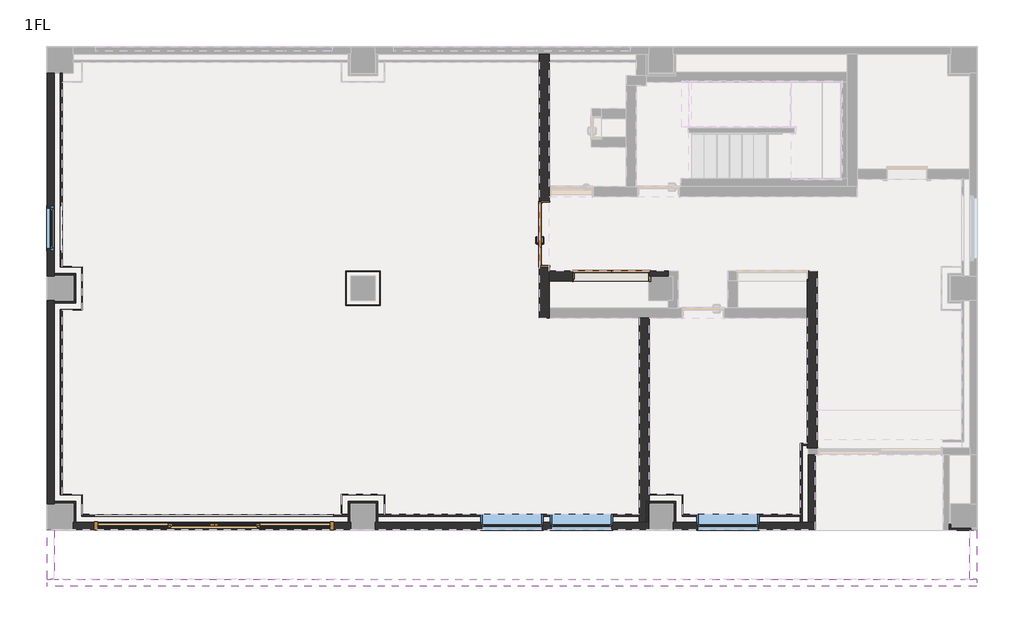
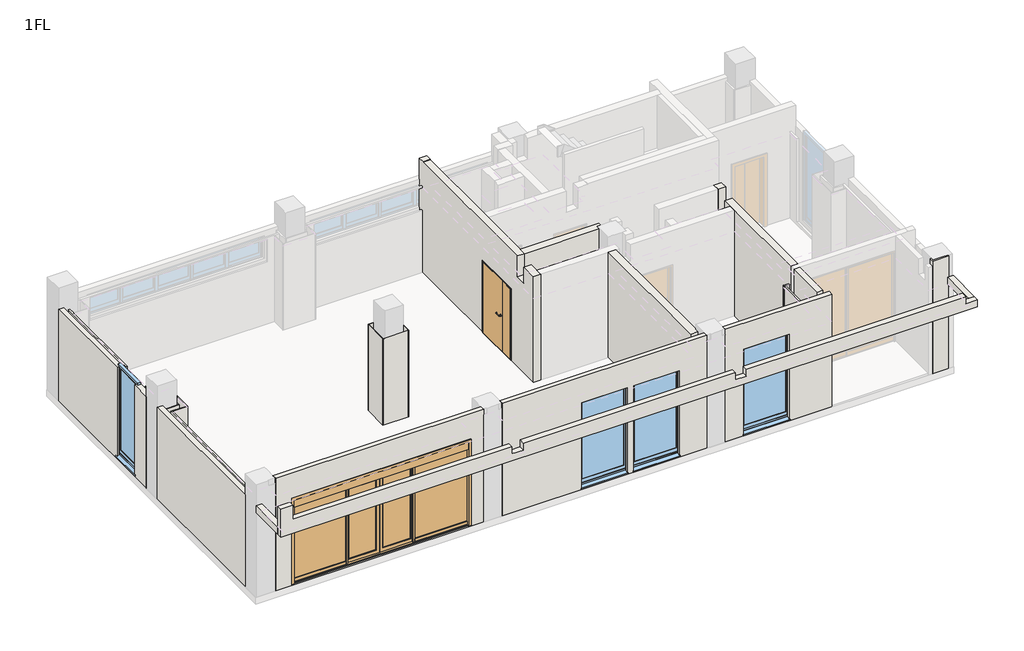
# One storey, part 1 of 3: 43 walls, 4 windows, 3 doors.
"""IFC4 building model written with IfcOpenShell, lengths in millimetres."""

from ifc_helpers import new_model, si_unit, frame, origin, place, context, project, spatial, polyline, outline, extrude, faceted_brep, transform, mapped, element, save
from components import door_5dd87f21, door_5352abf3, door_2ddaac4c, window_34b737b2, window_808e8724

model = new_model("IFC4")

# Units and contexts
model_context = context("Model", 3, world=origin())
ifc_project = project(units=[si_unit("LENGTHUNIT", "METRE", prefix="MILLI")], contexts=[model_context])

# Site, building, storey
site = spatial("IfcSite", under=ifc_project)
building = spatial("IfcBuilding", under=site)
storey = spatial("IfcBuildingStorey", under=building, Name="1FL", Elevation=100.0)

# Doors
placement = place(None, origin())
door_shape = door_5dd87f21(model_context)
element("IfcDoor", 1, ObjectType="B1 両開 フラッシュ_A1枠 : SD5-H2000W1500", at=placement, inside=storey, context=model_context, shape_type="MappedRepresentation", body=[
    mapped(door_shape, transform((11090.0, 4839.9999966, 100.0), x_axis=(1.0, 0.0, 0.0), y_axis=(0.0, 1.0, 0.0), z_axis=(0.0, 0.0, 1.0))),
])
door_2_shape = door_5352abf3(model_context)
element("IfcDoor", 2, ObjectType="□C1 親子 フラッシュ_A2枠 : SD1_H2000W1250", at=placement, inside=storey, context=model_context, shape_type="MappedRepresentation", body=[
    mapped(door_2_shape, transform((9740.0, 5687.5, 100.0), x_axis=(0.0, -1.0, 0.0), y_axis=(1.0, 0.0, 0.0), z_axis=(0.0, 0.0, 1.0))),
])
door_3_shape = door_2ddaac4c(model_context)
element("IfcDoor", 3, ObjectType="BC_STD_引分自動_欄間付 : SSD2_H2360W4680", at=placement, inside=storey, context=model_context, shape_type="MappedRepresentation", body=[
    mapped(door_3_shape, transform((3090.0, -197.5, 100.0), x_axis=(-1.0, 0.0, 0.0), y_axis=(0.0, -1.0, 0.0), z_axis=(0.0, 0.0, 1.0))),
])

# Walls
element("IfcWall", 4, ObjectType="•_RC120+押出法ポリスチレンフォーム1種 t25", at=placement, inside=storey, context=model_context, shape_type="Brep", body=[
    faceted_brep([(-125.0, 8930.0, 50.0), (-125.0, 8930.0, 2649.9998563), (-125.0, 6260.0, 2649.9998563), (-125.0, 6260.0, 185.0), (-125.0, 5340.0, 185.0), (-125.0, 5340.0, 2649.9998563), (-125.0, 4840.0, 2649.9998563), (-125.0, 4840.0, 50.0), (-125.0, 4860.0, 50.0), (-125.0, 4890.0, 50.0), (-270.0, 6210.0, 170.0), (-270.0, 6210.0, 2649.9998563), (-270.0, 8930.0, 2649.9998563), (-270.0, 8930.0, 50.0), (-270.0, 4840.0, 50.0), (-270.0, 4840.0, 2649.9998563), (-270.0, 5390.0, 2649.9998563), (-270.0, 5390.0, 170.0), (-270.0, 5390.0, 115.0), (-270.0, 6210.0, 115.0), (-210.0, 6210.0, 2649.9998563), (-210.0, 6260.0, 2649.9998563), (-210.0, 5340.0, 2649.9998563), (-210.0, 5390.0, 2649.9998563), (-210.0, 6260.0, 115.0), (-140.0, 6260.0, 115.0), (-140.0, 6260.0, 185.0), (-140.0, 5340.0, 185.0), (-140.0, 5340.0, 115.0), (-210.0, 5340.0, 115.0), (-210.0, 6210.0, 115.0), (-210.0, 5390.0, 115.0)], [[[0, 1, 2, 3, 4, 5, 6, 7, 8, 9]], [[10, 11, 12, 13, 14, 15, 16, 17, 18, 19]], [[13, 0, 9, 8, 7, 14]], [[1, 12, 11, 20, 21, 2]], [[5, 22, 23, 16, 15, 6]], [[1, 0, 13, 12]], [[24, 25, 26, 3, 2, 21]], [[27, 28, 29, 22, 5, 4]], [[26, 27, 4, 3]], [[25, 24, 30, 19, 18, 31, 29, 28]], [[30, 24, 21, 20]], [[29, 31, 23, 22]], [[25, 28, 27, 26]], [[19, 30, 20, 11, 10]], [[31, 18, 17, 16, 23]], [[7, 6, 15, 14]]]),
    faceted_brep([(-125.0, 250.0, 2649.9998563), (-125.0, 250.0, 50.0), (-125.0, 270.0, 50.0), (-125.0, 300.0, 50.0), (-125.0, 4290.0, 50.0), (-125.0, 4320.0, 50.0), (-125.0, 4340.0, 50.0), (-125.0, 4340.0, 2649.9998563), (-270.0, 250.0, 50.0), (-270.0, 250.0, 2649.9998563), (-270.0, 4340.0, 2649.9998563), (-270.0, 4340.0, 50.0)], [[[0, 1, 2, 3, 4, 5, 6, 7]], [[8, 9, 10, 11]], [[1, 8, 11, 6, 5, 4, 3, 2]], [[9, 0, 7, 10]], [[7, 6, 11, 10]], [[1, 0, 9, 8]]]),
])
element("IfcWall", 5, ObjectType="•_RC120+押出法ポリスチレンフォーム1種 t25", at=placement, inside=storey, context=model_context, shape_type="Brep", body=[
    faceted_brep([(15200.0, -125.0, 50.0), (15055.0, -125.0, 50.0), (14940.0, -125.0, 50.0), (14897.5, -125.0, 50.0), (12389.9999426, -125.0, 50.0), (12359.9999426, -125.0, 50.0), (12340.0, -125.0, 50.0), (12340.0, -125.0, 2650.0), (15200.0, -125.0, 2650.0), (12810.0, -125.0, 2530.0), (12810.0, -125.0, 95.0), (14070.0, -125.0, 95.0), (14070.0, -125.0, 2530.0), (15200.0, -270.0, 50.0), (15200.0, -270.0, 3100.0), (15200.0, -270.0, 3250.0), (12340.0, -270.0, 3250.0), (12340.0, -270.0, 3100.0), (12340.0, -270.0, 50.0), (14050.0, -270.0, 95.0), (12830.0, -270.0, 95.0), (12830.0, -270.0, 2510.0), (14050.0, -270.0, 2510.0), (15200.0, -150.0, 3250.0), (12340.0, -150.0, 3250.0), (12340.0, -250.0, 3250.0), (15200.0, -150.0, 2650.0), (15200.0, -150.0, 3100.0), (12810.0, -210.0, 95.0), (12830.0, -210.0, 95.0), (14050.0, -210.0, 95.0), (14070.0, -210.0, 95.0), (12810.0, -210.0, 2530.0), (14070.0, -210.0, 2530.0), (14050.0, -210.0, 2510.0), (12830.0, -210.0, 2510.0), (12340.0000006, -150.0, 2650.0)], [[[0, 1, 2, 3, 4, 5, 6, 7, 8], [9, 10, 11, 12]], [[13, 14, 15, 16, 17, 18], [19, 20, 21, 22]], [[6, 5, 4, 3, 2, 1, 0, 13, 18]], [[16, 15, 23, 24, 25]], [[15, 14, 13, 0, 8, 26, 27, 23]], [[28, 29, 20, 19, 30, 31, 11, 10]], [[28, 32, 33, 31, 30, 34, 35, 29]], [[20, 29, 35, 21]], [[30, 19, 22, 34]], [[35, 34, 22, 21]], [[26, 36, 24, 23, 27]], [[36, 26, 8, 7]], [[6, 18, 17, 16, 25, 24, 36, 7]], [[32, 28, 10, 9]], [[31, 33, 12, 11]], [[33, 32, 9, 12]]]),
    faceted_brep([(5840.0, -125.0, 50.0), (5820.0008327, -125.0, 50.0), (5790.0008327, -125.0, 50.0), (300.0, -125.0, 50.0), (270.0, -125.0, 50.0), (250.0, -125.0, 50.0), (250.0, -125.0, 2650.0), (5840.0, -125.0, 2650.0), (5500.0, -125.0, 85.0), (5500.0, -125.0, 2530.0), (680.0, -125.0, 2530.0), (680.0, -125.0, 85.0), (5840.0, -270.0, 50.0), (5840.0, -270.0, 3100.0), (5840.0, -270.0, 3250.0), (250.0, -270.0, 3250.0), (250.0, -270.0, 3100.0), (250.0, -270.0, 50.0), (5500.0, -270.0, 2530.0), (5500.0, -270.0, 85.0), (680.0, -270.0, 85.0), (680.0, -270.0, 2530.0), (5840.0, -150.0, 3250.0), (250.0, -150.0, 3250.0), (250.0, -250.0, 3250.0), (5840.0, -250.0, 3250.0), (5840.0, -150.0, 2650.0), (250.0, -150.0, 2650.0)], [[[0, 1, 2, 3, 4, 5, 6, 7], [8, 9, 10, 11]], [[12, 13, 14, 15, 16, 17], [18, 19, 20, 21]], [[5, 4, 3, 2, 1, 0, 12, 17]], [[22, 23, 24, 15, 14, 25]], [[12, 0, 7, 26, 22, 25, 14, 13]], [[8, 19, 18, 9]], [[19, 8, 11, 20]], [[20, 11, 10, 21]], [[9, 18, 21, 10]], [[23, 22, 26, 27]], [[7, 6, 27, 26]], [[5, 17, 16, 15, 24, 23, 27, 6]]]),
    faceted_brep([(11840.0, -125.0, 50.0), (11820.0015823, -125.0, 50.0), (11790.0015823, -125.0, 50.0), (11649.9999991, -125.0, 50.0), (6389.9999426, -125.0, 50.0), (6359.9999426, -125.0, 50.0), (6340.0, -125.0, 50.0), (6340.0, -125.0, 2650.0), (11840.0, -125.0, 2650.0), (9860.0, -125.0, 2530.0), (9860.0, -125.0, 95.0), (11120.0, -125.0, 95.0), (11120.0, -125.0, 2530.0), (8460.0, -125.0, 2530.0), (8460.0, -125.0, 95.0), (9720.0, -125.0, 95.0), (9720.0, -125.0, 2530.0), (6340.0, -270.0, 3250.0), (6340.0, -270.0, 3100.0), (6340.0, -270.0, 50.0), (11840.0, -270.0, 50.0), (11840.0, -270.0, 3100.0), (11840.0, -270.0, 3250.0), (9700.0, -270.0, 95.0), (8480.0, -270.0, 95.0), (8480.0, -270.0, 2510.0), (9700.0, -270.0, 2510.0), (11100.0, -270.0, 95.0), (9880.0, -270.0, 95.0), (9880.0, -270.0, 2510.0), (11100.0, -270.0, 2510.0), (11840.0, -150.0, 3250.0), (6340.0, -150.0, 3250.0), (6340.0, -250.0, 3250.0), (11840.0, -250.0, 3250.0), (11840.0, -150.0, 2650.0), (8460.0, -210.0, 95.0), (8480.0, -210.0, 95.0), (9700.0, -210.0, 95.0), (9720.0, -210.0, 95.0), (8460.0, -210.0, 2530.0), (9720.0, -210.0, 2530.0), (9700.0, -210.0, 2510.0), (8480.0, -210.0, 2510.0), (9860.0, -210.0, 95.0), (9880.0, -210.0, 95.0), (11100.0, -210.0, 95.0), (11120.0, -210.0, 95.0), (9860.0, -210.0, 2530.0), (11120.0, -210.0, 2530.0), (11100.0, -210.0, 2510.0), (9880.0, -210.0, 2510.0), (6340.0000006, -150.0, 2650.0)], [[[0, 1, 2, 3, 4, 5, 6, 7, 8], [9, 10, 11, 12], [13, 14, 15, 16]], [[17, 18, 19, 20, 21, 22], [23, 24, 25, 26], [27, 28, 29, 30]], [[6, 5, 4, 3, 2, 1, 0, 20, 19]], [[31, 32, 33, 17, 22, 34]], [[20, 0, 8, 35, 31, 34, 22, 21]], [[36, 37, 24, 23, 38, 39, 15, 14]], [[36, 40, 41, 39, 38, 42, 43, 37]], [[24, 37, 43, 25]], [[38, 23, 26, 42]], [[43, 42, 26, 25]], [[44, 45, 28, 27, 46, 47, 11, 10]], [[44, 48, 49, 47, 46, 50, 51, 45]], [[28, 45, 51, 29]], [[46, 27, 30, 50]], [[51, 50, 30, 29]], [[35, 52, 32, 31]], [[52, 35, 8, 7]], [[6, 19, 18, 17, 33, 32, 52, 7]], [[48, 44, 10, 9]], [[47, 49, 12, 11]], [[49, 48, 9, 12]], [[40, 36, 14, 13]], [[39, 41, 16, 15]], [[41, 40, 13, 16]]]),
])
element("IfcWall", 6, ObjectType="•_RC120+押出法ポリスチレンフォーム1種 t25", at=placement, inside=storey, context=model_context, shape_type="SweptSolid", body=[
    extrude(outline(polyline([(1230.0, 50.0), (-125.0, 50.0), (-125.0, 2650.0), (150.0, 2650.0), (150.0, 3100.0), (1230.0, 3100.0), (1230.0, 50.0)])), frame((15055.0, 0.0, 0.0), z_axis=(1.0, 0.0, 0.0), x_axis=(0.0, 1.0, 0.0)), (0.0, 0.0, 1.0), 145.0),
])
element("IfcWall", 7, ObjectType="•ALC100+20", at=placement, inside=storey, context=model_context, shape_type="Brep", body=[
    faceted_brep([(17900.0, -284.9999682, 50.0), (18330.0, -284.9999682, 50.0), (18330.0, -284.9999682, 2650.0), (18330.0, -284.9999682, 3250.0), (17900.0, -284.9999682, 3250.0), (17900.0, -284.9999682, 3100.0), (17900.0, -164.9999682, 50.0), (17900.0, -164.9999682, 3250.0), (17930.0, -164.9999682, 3250.0), (17930.0, -164.9999682, 50.0), (17930.0, -250.0, 50.0), (18330.0, -250.0, 50.0), (18330.0, -250.0, 3250.0), (17930.0, -250.0, 3250.0), (18330.0, -250.0, 2650.0)], [[[0, 1, 2, 3, 4, 5]], [[6, 7, 8, 9]], [[1, 0, 6, 9, 10, 11]], [[4, 3, 12, 13, 8, 7]], [[0, 5, 4, 7, 6]], [[3, 2, 1, 11, 14, 12]], [[13, 10, 9, 8]], [[10, 13, 12, 14, 11]]]),
])
element("IfcWall", 8, ObjectType="•RC30+12.5", at=placement, inside=storey, context=model_context, shape_type="Brep", body=[
    faceted_brep([(11649.9999991, 32.5, 50.0), (6528.5, 32.5, 50.0), (6516.0, 32.5, 50.0), (6389.9999426, 32.5, 50.0), (6389.9999426, 32.5, 2550.0), (6516.0, 32.5, 2550.0), (6528.5, 32.5, 2550.0), (11649.9999991, 32.5, 2550.0), (8460.0, 32.5, 2530.0), (8460.0, 32.5, 95.0), (9720.0, 32.5, 95.0), (9720.0, 32.5, 2530.0), (9860.0, 32.5, 2530.0), (9860.0, 32.5, 95.0), (11120.0, 32.5, 95.0), (11120.0, 32.5, 2530.0), (6389.9999426, -10.0, 50.0), (11649.9999991, -10.0, 50.0), (11649.9999991, -10.0, 2550.0), (6389.9999426, -10.0, 2550.0), (8460.0, -10.0, 95.0), (8460.0, -10.0, 2530.0), (9720.0, -10.0, 2530.0), (9720.0, -10.0, 95.0), (9860.0, -10.0, 95.0), (9860.0, -10.0, 2530.0), (11120.0, -10.0, 2530.0), (11120.0, -10.0, 95.0)], [[[0, 1, 2, 3, 4, 5, 6, 7], [8, 9, 10, 11], [12, 13, 14, 15]], [[16, 17, 18, 19], [20, 21, 22, 23], [24, 25, 26, 27]], [[3, 2, 1, 0, 17, 16]], [[7, 6, 5, 4, 19, 18]], [[0, 7, 18, 17]], [[4, 3, 16, 19]], [[8, 21, 20, 9]], [[10, 23, 22, 11]], [[21, 8, 11, 22]], [[9, 20, 23, 10]], [[12, 25, 24, 13]], [[26, 15, 14, 27]], [[25, 12, 15, 26]], [[13, 24, 27, 14]]]),
])
element("IfcWall", 9, ObjectType="•RC30+12.5", at=placement, inside=storey, context=model_context, shape_type="Brep", body=[
    faceted_brep([(5790.0008327, 32.5, 50.0), (5664.0, 32.5, 50.0), (5651.5, 32.5, 50.0), (438.5, 32.5, 50.0), (426.0, 32.5, 50.0), (426.0, 32.5, 2550.0), (438.5, 32.5, 2550.0), (5651.5, 32.5, 2550.0), (5664.0, 32.5, 2550.0), (5790.0008327, 32.5, 2550.0), (5500.0, 32.5, 2530.0), (680.0, 32.5, 2530.0), (680.0, 32.5, 85.0), (5500.0, 32.5, 85.0), (5790.0008327, -10.0, 50.0), (5790.0008327, -10.0, 2550.0), (426.0, -10.0, 2550.0), (426.0, -10.0, 50.0), (5500.0, -10.0, 2530.0), (5500.0, -10.0, 85.0), (680.0, -10.0, 85.0), (680.0, -10.0, 2530.0)], [[[0, 1, 2, 3, 4, 5, 6, 7, 8, 9], [10, 11, 12, 13]], [[14, 15, 16, 17], [18, 19, 20, 21]], [[4, 3, 2, 1, 0, 14, 17]], [[9, 8, 7, 6, 5, 16, 15]], [[5, 4, 17, 16]], [[19, 18, 10, 13]], [[20, 19, 13, 12]], [[21, 20, 12, 11]], [[18, 21, 11, 10]], [[0, 9, 15, 14]]]),
])
element("IfcWall", 10, ObjectType="•RC30+12.5", at=placement, inside=storey, context=model_context, shape_type="Brep", body=[
    faceted_brep([(32.5, 426.0, 50.0), (32.5, 438.5, 50.0), (32.5, 4151.5, 50.0), (32.5, 4164.0, 50.0), (32.5, 4164.0, 2550.0), (32.5, 4151.5, 2550.0), (32.5, 438.5, 2550.0), (32.5, 426.0, 2550.0), (-10.0, 426.0, 50.0), (-10.0, 426.0, 2550.0), (-10.0, 4164.0, 2550.0), (-10.0, 4164.0, 50.0)], [[[0, 1, 2, 3, 4, 5, 6, 7]], [[8, 9, 10, 11]], [[3, 2, 1, 0, 8, 11]], [[7, 6, 5, 4, 10, 9]], [[0, 7, 9, 8]], [[4, 3, 11, 10]]]),
])
element("IfcWall", 11, ObjectType="•RC30+12.5", at=placement, inside=storey, context=model_context, shape_type="Brep", body=[
    faceted_brep([(32.5, 5016.0, 50.0), (32.5, 5028.5, 50.0), (32.5, 8741.5, 50.0), (32.5, 8754.0, 50.0), (32.5, 8930.0, 50.0), (32.5, 8930.0, 2550.0), (32.5, 8754.0, 2550.0), (32.5, 8741.5, 2550.0), (32.5, 6260.0, 2550.0), (32.5, 6260.0, 185.0), (32.5, 5340.0, 185.0), (32.5, 5340.0, 2550.0), (32.5, 5028.5, 2550.0), (32.5, 5016.0, 2550.0), (-10.0, 8930.0, 50.0), (-10.0, 5016.0, 50.0), (-10.0, 5016.0, 2550.0), (-10.0, 5340.0, 2550.0), (-10.0, 5340.0, 185.0), (-10.0, 6260.0, 185.0), (-10.0, 6260.0, 2550.0), (-10.0, 8930.0, 2550.0)], [[[0, 1, 2, 3, 4, 5, 6, 7, 8, 9, 10, 11, 12, 13]], [[14, 15, 16, 17, 18, 19, 20, 21]], [[4, 3, 2, 1, 0, 15, 14]], [[5, 4, 14, 21]], [[5, 21, 20, 8, 7, 6]], [[16, 13, 12, 11, 17]], [[0, 13, 16, 15]], [[19, 9, 8, 20]], [[10, 18, 17, 11]], [[9, 19, 18, 10]]]),
])
element("IfcWall", 12, ObjectType="•RC30+12.5", at=placement, inside=storey, context=model_context, shape_type="Brep", body=[
    faceted_brep([(14897.5, 1420.0, 50.0), (14897.5, 32.5, 50.0), (14897.5, -10.0, 50.0), (14897.5, -125.0, 50.0), (14897.5, -125.0, 2550.0), (14897.5, -10.0, 2550.0), (14897.5, 32.5, 2550.0), (14897.5, 1420.0, 2550.0), (14940.0, 1420.0, 50.0), (14940.0, 1420.0, 2550.0), (14940.0, -125.0, 2550.0), (14940.0, -125.0, 50.0)], [[[0, 1, 2, 3, 4, 5, 6, 7]], [[8, 9, 10, 11]], [[3, 2, 1, 0, 8, 11]], [[7, 6, 5, 4, 10, 9]], [[0, 7, 9, 8]], [[4, 3, 11, 10]]]),
])
element("IfcWall", 13, ObjectType="•RC30+12.5", at=placement, inside=storey, context=model_context, shape_type="Brep", body=[
    faceted_brep([(14897.5, 32.5, 50.0), (12528.5, 32.5, 50.0), (12516.0, 32.5, 50.0), (12516.0, 32.5, 2550.0), (12528.5, 32.5, 2550.0), (14897.5, 32.5, 2550.0), (12810.0, 32.5, 2530.0), (12810.0, 32.5, 95.0), (14070.0, 32.5, 95.0), (14070.0, 32.5, 2530.0), (12516.0, -10.0, 50.0), (14897.5, -10.0, 50.0), (14897.5, -10.0, 2550.0), (12516.0, -10.0, 2550.0), (12810.0, -10.0, 95.0), (12810.0, -10.0, 2530.0), (14070.0, -10.0, 2530.0), (14070.0, -10.0, 95.0)], [[[0, 1, 2, 3, 4, 5], [6, 7, 8, 9]], [[10, 11, 12, 13], [14, 15, 16, 17]], [[2, 1, 0, 11, 10]], [[5, 4, 3, 13, 12]], [[0, 5, 12, 11]], [[3, 2, 10, 13]], [[6, 15, 14, 7]], [[8, 17, 16, 9]], [[15, 6, 9, 16]], [[7, 14, 17, 8]]]),
])
element("IfcWall", 14, ObjectType="•t=30mm", at=placement, inside=storey, context=model_context, shape_type="Brep", body=[
    faceted_brep([(300.0, -125.0, 50.0), (300.0, 300.0, 50.0), (300.0, 300.0, 2550.0), (300.0, -125.0, 2550.0), (270.0, -125.0, 50.0), (270.0, -125.0, 2550.0), (270.0, 270.0, 2550.0), (270.0, 300.0, 2550.0), (270.0, 300.0, 50.0), (270.0, 270.0, 50.0)], [[[0, 1, 2, 3]], [[4, 5, 6, 7, 8, 9]], [[1, 0, 4, 9, 8]], [[3, 2, 7, 6, 5]], [[2, 1, 8, 7]], [[0, 3, 5, 4]]]),
])
element("IfcWall", 15, ObjectType="•t=30mm", at=placement, inside=storey, context=model_context, shape_type="SweptSolid", body=[
    extrude(outline(polyline([(-125.0, 300.0), (270.0, 300.0), (270.0, 270.0), (-125.0, 270.0), (-125.0, 300.0)])), frame((0.0, 0.0, 50.0), z_axis=(0.0, 0.0, 1.0), x_axis=(1.0, 0.0, 0.0)), (0.0, 0.0, 1.0), 2500.0),
])
element("IfcWall", 16, ObjectType="•t=30mm", at=placement, inside=storey, context=model_context, shape_type="Brep", body=[
    faceted_brep([(5820.0008327, -125.0, 50.0), (5820.0008327, 269.9999177, 50.0), (5820.0008327, 299.9999177, 50.0), (5820.0008327, 299.9999177, 2550.0), (5820.0008327, 269.9999177, 2550.0), (5820.0008327, -125.0, 2550.0), (5790.0008327, -125.0, 50.0), (5790.0008327, -125.0, 2550.0), (5790.0008327, -10.0, 2550.0), (5790.0008327, 32.5, 2550.0), (5790.0008327, 299.9998683, 2550.0), (5790.0008327, 299.9998683, 50.0), (5790.0008327, 32.5, 50.0), (5790.0008327, -10.0, 50.0)], [[[0, 1, 2, 3, 4, 5]], [[6, 7, 8, 9, 10, 11, 12, 13]], [[2, 1, 0, 6, 13, 12, 11]], [[5, 4, 3, 10, 9, 8, 7]], [[3, 2, 11, 10]], [[0, 5, 7, 6]]]),
])
element("IfcWall", 17, ObjectType="•t=30mm", at=placement, inside=storey, context=model_context, shape_type="Brep", body=[
    faceted_brep([(5820.0008327, 269.9999177, 50.0), (6359.9999426, 270.0008078, 50.0), (6389.9999426, 270.0008573, 50.0), (6389.9999426, 270.0008573, 2550.0), (6359.9999426, 270.0008078, 2550.0), (5820.0008327, 269.9999177, 2550.0), (5820.0008327, 299.9999177, 50.0), (5820.0008327, 299.9999177, 2550.0), (6389.9999426, 300.0008573, 2550.0), (6389.9999426, 300.0008573, 50.0)], [[[0, 1, 2, 3, 4, 5]], [[6, 7, 8, 9]], [[2, 1, 0, 6, 9]], [[5, 4, 3, 8, 7]], [[0, 5, 7, 6]], [[3, 2, 9, 8]]]),
])
element("IfcWall", 18, ObjectType="•t=30mm", at=placement, inside=storey, context=model_context, shape_type="Brep", body=[
    faceted_brep([(6359.9999426, 270.0008078, 50.0), (6359.9999426, -125.0, 50.0), (6359.9999426, -125.0, 2550.0), (6359.9999426, 270.0008078, 2550.0), (6389.9999426, 270.0008573, 50.0), (6389.9999426, 270.0008573, 2550.0), (6389.9999426, 32.5, 2550.0), (6389.9999426, -10.0, 2550.0), (6389.9999426, -125.0, 2550.0), (6389.9999426, -125.0, 50.0), (6389.9999426, -10.0, 50.0), (6389.9999426, 32.5, 50.0)], [[[0, 1, 2, 3]], [[4, 5, 6, 7, 8, 9, 10, 11]], [[1, 0, 4, 11, 10, 9]], [[3, 2, 8, 7, 6, 5]], [[0, 3, 5, 4]], [[2, 1, 9, 8]]]),
])
element("IfcWall", 19, ObjectType="•t=30mm", at=placement, inside=storey, context=model_context, shape_type="Brep", body=[
    faceted_brep([(11820.0015823, -125.0, 50.0), (11820.0015823, 270.0008573, 50.0), (11820.0015823, 300.0008573, 50.0), (11820.0015823, 300.0008573, 2550.0), (11820.0015823, 270.0008573, 2550.0), (11820.0015823, -125.0, 2550.0), (11790.0015823, -125.0, 50.0), (11790.0015823, -125.0, 2550.0), (11790.0015823, 300.00086, 2550.0), (11790.0015823, 300.00086, 50.0)], [[[0, 1, 2, 3, 4, 5]], [[6, 7, 8, 9]], [[2, 1, 0, 6, 9]], [[5, 4, 3, 8, 7]], [[0, 5, 7, 6]], [[3, 2, 9, 8]]]),
])
element("IfcWall", 20, ObjectType="•t=30mm", at=placement, inside=storey, context=model_context, shape_type="Brep", body=[
    faceted_brep([(11820.0015823, 270.0008573, 50.0), (12359.9999426, 270.0008078, 50.0), (12389.9999426, 270.0008051, 50.0), (12389.9999426, 270.0008051, 2550.0), (12359.9999426, 270.0008078, 2550.0), (11820.0015823, 270.0008573, 2550.0), (11820.0015823, 300.0008573, 50.0), (11820.0015823, 300.0008573, 2550.0), (12389.9999426, 300.0008051, 2550.0), (12389.9999426, 300.0008051, 50.0)], [[[0, 1, 2, 3, 4, 5]], [[6, 7, 8, 9]], [[2, 1, 0, 6, 9]], [[5, 4, 3, 8, 7]], [[0, 5, 7, 6]], [[3, 2, 9, 8]]]),
])
element("IfcWall", 21, ObjectType="•t=30mm", at=placement, inside=storey, context=model_context, shape_type="SweptSolid", body=[
    extrude(outline(polyline([(12359.9999426, -125.0), (12359.9999426, 270.0008078), (12389.9999426, 270.0008051), (12389.9999426, -125.0), (12359.9999426, -125.0)])), frame((0.0, 0.0, 50.0), z_axis=(0.0, 0.0, 1.0), x_axis=(1.0, 0.0, 0.0)), (0.0, 0.0, 1.0), 2500.0),
])
element("IfcWall", 22, ObjectType="•PB12.5", at=placement, inside=storey, context=model_context, shape_type="Brep", body=[
    faceted_brep([(438.5, 32.5, 50.0), (438.5, 438.5, 50.0), (438.5, 438.5, 2550.0), (438.5, 32.5, 2550.0), (426.0, 32.5, 50.0), (426.0, 32.5, 2550.0), (426.0, 426.0, 2550.0), (426.0, 438.5, 2550.0), (426.0, 438.5, 50.0), (426.0, 426.0, 50.0)], [[[0, 1, 2, 3]], [[4, 5, 6, 7, 8, 9]], [[1, 0, 4, 9, 8]], [[3, 2, 7, 6, 5]], [[2, 1, 8, 7]], [[0, 3, 5, 4]]]),
])
element("IfcWall", 23, ObjectType="•PB12.5", at=placement, inside=storey, context=model_context, shape_type="SweptSolid", body=[
    extrude(outline(polyline([(32.5, 438.5), (426.0, 438.5), (426.0, 426.0), (32.5, 426.0), (32.5, 438.5)])), frame((0.0, 0.0, 50.0), z_axis=(0.0, 0.0, 1.0), x_axis=(1.0, 0.0, 0.0)), (0.0, 0.0, 1.0), 2500.0),
])
element("IfcWall", 24, ObjectType="•PB12.5", at=placement, inside=storey, context=model_context, shape_type="Brep", body=[
    faceted_brep([(32.5, 4151.5, 50.0), (438.5, 4151.5, 50.0), (438.5, 4151.5, 2550.0), (32.5, 4151.5, 2550.0), (32.5, 4164.0, 50.0), (32.5, 4164.0, 2550.0), (426.0, 4164.0, 2550.0), (438.5, 4164.0, 2550.0), (438.5, 4164.0, 50.0), (426.0, 4164.0, 50.0)], [[[0, 1, 2, 3]], [[4, 5, 6, 7, 8, 9]], [[1, 0, 4, 9, 8]], [[3, 2, 7, 6, 5]], [[2, 1, 8, 7]], [[0, 3, 5, 4]]]),
])
element("IfcWall", 25, ObjectType="•PB12.5", at=placement, inside=storey, context=model_context, shape_type="Brep", body=[
    faceted_brep([(438.5, 4164.0, 50.0), (438.5, 5028.5, 50.0), (438.5, 5028.5, 2550.0), (438.5, 4164.0, 2550.0), (426.0, 4164.0, 50.0), (426.0, 4164.0, 2550.0), (426.0, 5016.0, 2550.0), (426.0, 5028.5, 2550.0), (426.0, 5028.5, 50.0), (426.0, 5016.0, 50.0)], [[[0, 1, 2, 3]], [[4, 5, 6, 7, 8, 9]], [[1, 0, 4, 9, 8]], [[3, 2, 7, 6, 5]], [[0, 3, 5, 4]], [[2, 1, 8, 7]]]),
])
element("IfcWall", 26, ObjectType="•PB12.5", at=placement, inside=storey, context=model_context, shape_type="SweptSolid", body=[
    extrude(outline(polyline([(32.5, 5028.5), (426.0, 5028.5), (426.0, 5016.0), (32.5, 5016.0), (32.5, 5028.5)])), frame((0.0, 0.0, 50.0), z_axis=(0.0, 0.0, 1.0), x_axis=(1.0, 0.0, 0.0)), (0.0, 0.0, 1.0), 2500.0),
])
element("IfcWall", 27, ObjectType="•t=30mm", at=placement, inside=storey, context=model_context, shape_type="Brep", body=[
    faceted_brep([(-125.0, 4290.0, 50.0), (300.0, 4290.0, 50.0), (300.0, 4290.0, 2550.0), (-125.0, 4290.0, 2550.0), (-125.0, 4320.0, 50.0), (-125.0, 4320.0, 2550.0), (270.0, 4320.0, 2550.0), (300.0, 4320.0, 2550.0), (300.0, 4320.0, 50.0), (270.0, 4320.0, 50.0)], [[[0, 1, 2, 3]], [[4, 5, 6, 7, 8, 9]], [[1, 0, 4, 9, 8]], [[3, 2, 7, 6, 5]], [[2, 1, 8, 7]], [[0, 3, 5, 4]]]),
])
element("IfcWall", 28, ObjectType="•t=30mm", at=placement, inside=storey, context=model_context, shape_type="Brep", body=[
    faceted_brep([(300.0, 4320.0, 50.0), (300.0, 4890.0, 50.0), (300.0, 4890.0, 2550.0), (300.0, 4320.0, 2550.0), (270.0, 4320.0, 50.0), (270.0, 4320.0, 2550.0), (270.0, 4860.0, 2550.0), (270.0, 4890.0, 2550.0), (270.0, 4890.0, 50.0), (270.0, 4860.0, 50.0)], [[[0, 1, 2, 3]], [[4, 5, 6, 7, 8, 9]], [[1, 0, 4, 9, 8]], [[3, 2, 7, 6, 5]], [[0, 3, 5, 4]], [[2, 1, 8, 7]]]),
])
element("IfcWall", 29, ObjectType="•t=30mm", at=placement, inside=storey, context=model_context, shape_type="SweptSolid", body=[
    extrude(outline(polyline([(-125.0, 4890.0), (270.0, 4890.0), (270.0, 4860.0), (-125.0, 4860.0), (-125.0, 4890.0)])), frame((0.0, 0.0, 50.0), z_axis=(0.0, 0.0, 1.0), x_axis=(1.0, 0.0, 0.0)), (0.0, 0.0, 1.0), 2500.0),
])
element("IfcWall", 30, ObjectType="•PB12.5", at=placement, inside=storey, context=model_context, shape_type="Brep", body=[
    faceted_brep([(6528.5, 32.5, 50.0), (6528.5, 438.5, 50.0), (6528.5, 438.5, 2550.0), (6528.5, 32.5, 2550.0), (6516.0, 32.5, 50.0), (6516.0, 32.5, 2550.0), (6516.0, 426.0, 2550.0), (6516.0, 438.5, 2550.0), (6516.0, 438.5, 50.0), (6516.0, 426.0, 50.0)], [[[0, 1, 2, 3]], [[4, 5, 6, 7, 8, 9]], [[1, 0, 4, 9, 8]], [[3, 2, 7, 6, 5]], [[0, 3, 5, 4]], [[2, 1, 8, 7]]]),
])
element("IfcWall", 31, ObjectType="•PB12.5", at=placement, inside=storey, context=model_context, shape_type="Brep", body=[
    faceted_brep([(6516.0, 438.5, 50.0), (5651.5, 438.5, 50.0), (5651.5, 438.5, 2550.0), (6516.0, 438.5, 2550.0), (6516.0, 426.0, 50.0), (6516.0, 426.0, 2550.0), (5664.0, 426.0, 2550.0), (5651.5, 426.0, 2550.0), (5651.5, 426.0, 50.0), (5664.0, 426.0, 50.0)], [[[0, 1, 2, 3]], [[4, 5, 6, 7, 8, 9]], [[1, 0, 4, 9, 8]], [[3, 2, 7, 6, 5]], [[0, 3, 5, 4]], [[2, 1, 8, 7]]]),
])
element("IfcWall", 32, ObjectType="•PB12.5", at=placement, inside=storey, context=model_context, shape_type="SweptSolid", body=[
    extrude(outline(polyline([(5651.5, 32.5), (5651.5, 426.0), (5664.0, 426.0), (5664.0, 32.5), (5651.5, 32.5)])), frame((0.0, 0.0, 50.0), z_axis=(0.0, 0.0, 1.0), x_axis=(1.0, 0.0, 0.0)), (0.0, 0.0, 1.0), 2500.0),
])
element("IfcWall", 33, ObjectType="•PB12.5", at=placement, inside=storey, context=model_context, shape_type="Brep", body=[
    faceted_brep([(12528.5, 32.5, 50.0), (12528.5, 438.5, 50.0), (12528.5, 438.5, 2550.0), (12528.5, 32.5, 2550.0), (12516.0, 32.5, 50.0), (12516.0, 32.5, 2550.0), (12516.0, 426.0, 2550.0), (12516.0, 438.5, 2550.0), (12516.0, 438.5, 50.0), (12516.0, 426.0, 50.0)], [[[0, 1, 2, 3]], [[4, 5, 6, 7, 8, 9]], [[1, 0, 4, 9, 8]], [[3, 2, 7, 6, 5]], [[2, 1, 8, 7]], [[0, 3, 5, 4]]]),
])
element("IfcWall", 34, ObjectType="•PB12.5", at=placement, inside=storey, context=model_context, shape_type="SweptSolid", body=[
    extrude(outline(polyline([(11849.9999991, 438.5), (12516.0, 438.5), (12516.0, 426.0), (11849.9999991, 426.0), (11849.9999991, 438.5)])), frame((0.0, 0.0, 50.0), z_axis=(0.0, 0.0, 1.0), x_axis=(1.0, 0.0, 0.0)), (0.0, 0.0, 1.0), 2500.0),
])
element("IfcWall", 35, ObjectType="•PB12.5", at=placement, inside=storey, context=model_context, shape_type="Brep", body=[
    faceted_brep([(6438.5, 4241.5, 50.0), (6438.5, 4938.4999969, 50.0), (6438.5, 4938.4999969, 2550.0), (6438.5, 4241.5, 2550.0), (6426.0, 4241.5, 50.0), (6426.0, 4241.5, 2550.0), (6426.0, 4254.0, 2550.0), (6426.0, 4925.9999969, 2550.0), (6426.0, 4938.4999969, 2550.0), (6426.0, 4938.4999969, 50.0), (6426.0, 4925.9999969, 50.0), (6426.0, 4254.0, 50.0)], [[[0, 1, 2, 3]], [[4, 5, 6, 7, 8, 9, 10, 11]], [[1, 0, 4, 11, 10, 9]], [[3, 2, 8, 7, 6, 5]], [[2, 1, 9, 8]], [[0, 3, 5, 4]]]),
])
element("IfcWall", 36, ObjectType="•PB12.5", at=placement, inside=storey, context=model_context, shape_type="Brep", body=[
    faceted_brep([(6426.0, 4938.4999969, 50.0), (5741.5, 4938.4999969, 50.0), (5741.5, 4938.4999969, 2550.0), (6426.0, 4938.4999969, 2550.0), (6426.0, 4925.9999969, 50.0), (6426.0, 4925.9999969, 2550.0), (5754.0, 4925.9999969, 2550.0), (5741.5, 4925.9999969, 2550.0), (5741.5, 4925.9999969, 50.0), (5754.0, 4925.9999969, 50.0)], [[[0, 1, 2, 3]], [[4, 5, 6, 7, 8, 9]], [[1, 0, 4, 9, 8]], [[3, 2, 7, 6, 5]], [[0, 3, 5, 4]], [[2, 1, 8, 7]]]),
])
element("IfcWall", 37, ObjectType="•PB12.5", at=placement, inside=storey, context=model_context, shape_type="Brep", body=[
    faceted_brep([(5741.5, 4925.9999969, 50.0), (5741.5, 4241.5, 50.0), (5741.5, 4241.5, 2550.0), (5741.5, 4925.9999969, 2550.0), (5754.0, 4925.9999969, 50.0), (5754.0, 4925.9999969, 2550.0), (5754.0, 4254.0, 2550.0), (5754.0, 4241.5, 2550.0), (5754.0, 4241.5, 50.0), (5754.0, 4254.0, 50.0)], [[[0, 1, 2, 3]], [[4, 5, 6, 7, 8, 9]], [[1, 0, 4, 9, 8]], [[3, 2, 7, 6, 5]], [[0, 3, 5, 4]], [[2, 1, 8, 7]]]),
])
element("IfcWall", 38, ObjectType="•PB12.5", at=placement, inside=storey, context=model_context, shape_type="SweptSolid", body=[
    extrude(outline(polyline([(6426.0, 4241.5), (5754.0, 4241.5), (5754.0, 4254.0), (6426.0, 4254.0), (6426.0, 4241.5)])), frame((0.0, 0.0, 50.0), z_axis=(0.0, 0.0, 1.0), x_axis=(1.0, 0.0, 0.0)), (0.0, 0.0, 1.0), 2500.0),
])
element("IfcWall", 39, ObjectType="•RC200", at=placement, inside=storey, context=model_context, shape_type="Brep", body=[
    faceted_brep([(12240.0, 4939.9999966, 50.0), (9840.0, 4939.9999966, 50.0), (9840.0, 4939.9999966, 3240.0), (11940.0, 4939.9999966, 3240.0), (11940.0, 4939.9999966, 2650.0), (12240.0, 4939.9999966, 2650.0), (11867.5, 4939.9999966, 100.0), (11867.5, 4939.9999966, 2127.5), (10312.5, 4939.9999966, 2127.5), (10312.5, 4939.9999966, 100.0), (9840.0, 4739.9999966, 50.0), (11840.0, 4739.9999966, 50.0), (11840.0, 4739.9999966, 100.0), (10312.5, 4739.9999966, 100.0), (10312.5, 4739.9999966, 2127.5), (11840.0, 4739.9999966, 2127.5), (11840.0, 4739.9999966, 2650.0), (11840.0, 4739.9999966, 3240.0), (9840.0, 4739.9999966, 3240.0), (12240.0, 4840.0, 50.0), (11840.0, 4840.0, 50.0), (12240.0, 4840.0, 2650.0), (11940.0, 4840.0, 2650.0), (11940.0, 4840.0, 3240.0), (11840.0, 4840.0, 3240.0), (11840.0, 4840.0, 2127.5), (11867.5, 4840.0, 2127.5), (11867.5, 4840.0, 100.0), (11840.0, 4840.0, 100.0)], [[[0, 1, 2, 3, 4, 5], [6, 7, 8, 9]], [[10, 11, 12, 13, 14, 15, 16, 17, 18]], [[1, 0, 19, 20, 11, 10]], [[19, 0, 5, 21]], [[20, 19, 21, 22, 23, 24, 25, 26, 27, 28]], [[11, 20, 28, 12]], [[15, 25, 24, 17, 16]], [[1, 10, 18, 2]], [[7, 6, 27, 26]], [[6, 9, 13, 12, 28, 27]], [[14, 13, 9, 8]], [[8, 7, 26, 25, 15, 14]], [[22, 4, 3, 23]], [[4, 22, 21, 5]], [[3, 2, 18, 17, 24, 23]]]),
])
element("IfcWall", 40, ObjectType="•RC200", at=placement, inside=storey, context=model_context, shape_type="Brep", body=[
    faceted_brep([(9640.0, 9305.0, 50.0), (9640.0, 9190.0, 50.0), (9640.0, 9147.5, 50.0), (9640.0, 3990.0, 50.0), (9640.0, 3990.0, 3100.0), (9640.0, 4440.0, 3100.0), (9640.0, 4440.0, 2650.0), (9640.0, 4740.0, 2650.0), (9640.0, 4740.0, 3240.0), (9640.0, 9130.0, 3240.0), (9640.0, 9130.0, 3250.0), (9640.0, 9305.0, 3250.0), (9640.0, 5035.0, 2127.5), (9640.0, 5035.0, 100.0), (9640.0, 6340.0, 100.0), (9640.0, 6340.0, 2127.5), (9840.0, 9305.0, 50.0), (9840.0, 9305.0, 3250.0), (9840.0, 9130.0, 3250.0), (9840.0, 9130.0, 3240.0), (9840.0, 6640.0, 3240.0), (9840.0, 6440.0, 3240.0), (9840.0, 4939.9999966, 3240.0), (9840.0, 4740.0, 3240.0), (9840.0, 4740.0, 2650.0), (9840.0, 4440.0, 2650.0), (9840.0, 4440.0, 3100.0), (9840.0, 4190.0, 3100.0), (9840.0, 3990.0, 3100.0), (9840.0, 3990.0, 50.0), (9840.0, 4190.0, 50.0), (9840.0, 4739.9999966, 50.0), (9840.0, 4939.9999966, 50.0), (9840.0, 5022.5, 50.0), (9840.0, 5022.5, 100.0), (9840.0, 5035.0, 100.0), (9840.0, 5035.0, 2127.5), (9840.0, 6340.0, 2127.5), (9840.0, 6340.0, 100.0), (9840.0, 6352.5, 100.0), (9840.0, 6352.5, 50.0), (9840.0, 6480.0, 50.0), (9840.0, 6640.0, 50.0), (9840.0, 9147.5, 50.0), (9840.0, 9190.0, 50.0), (9675.0, 6352.5, 50.0), (9675.0, 5022.5, 50.0), (9675.0, 5035.0, 100.0), (9675.0, 6340.0, 100.0), (9675.0, 5022.5, 100.0), (9675.0, 6352.5, 100.0)], [[[0, 1, 2, 3, 4, 5, 6, 7, 8, 9, 10, 11], [12, 13, 14, 15]], [[16, 17, 18, 19, 20, 21, 22, 23, 24, 25, 26, 27, 28, 29, 30, 31, 32, 33, 34, 35, 36, 37, 38, 39, 40, 41, 42, 43, 44]], [[3, 2, 1, 0, 16, 44, 43, 42, 41, 40, 45, 46, 33, 32, 31, 30, 29]], [[17, 11, 10, 18]], [[3, 29, 28, 4]], [[0, 11, 17, 16]], [[13, 12, 36, 35, 47]], [[14, 13, 47, 48]], [[15, 14, 48, 38, 37]], [[12, 15, 37, 36]], [[34, 49, 47, 35]], [[50, 39, 38, 48]], [[49, 34, 33, 46]], [[49, 46, 45, 50, 48, 47]], [[39, 50, 45, 40]], [[7, 24, 23, 8]], [[25, 6, 5, 26]], [[24, 7, 6, 25]], [[9, 8, 23, 22, 21, 20, 19]], [[9, 19, 18, 10]], [[5, 4, 28, 27, 26]]]),
])
element("IfcWall", 41, ObjectType="•RC200", at=placement, inside=storey, context=model_context, shape_type="Brep", body=[
    faceted_brep([(15240.0, 1375.0, 50.0), (15240.0, 1490.0, 50.0), (15240.0, 1532.5, 50.0), (15240.0, 4940.0, 50.0), (15240.0, 4940.0, 3240.0), (15240.0, 4740.0, 3240.0), (15240.0, 4740.0, 2650.0), (15240.0, 4440.0, 2650.0), (15240.0, 4440.0, 3100.0), (15240.0, 1375.0, 3100.0), (15040.0, 4940.0, 50.0), (15040.0, 4740.0, 50.0), (15040.0, 4190.0, 50.0), (15040.0, 3990.0, 50.0), (15040.0, 1462.5, 50.0), (15040.0, 1420.0, 50.0), (15040.0, 1375.0, 50.0), (15040.0, 1375.0, 3100.0), (15040.0, 3990.0, 3100.0), (15040.0, 4190.0, 3100.0), (15040.0, 4440.0, 3100.0), (15040.0, 4440.0, 2650.0), (15040.0, 4740.0, 2650.0), (15040.0, 4740.0, 3240.0), (15040.0, 4940.0, 3240.0), (15040.0, 4940.0, 2127.5), (15040.0, 4740.0, 2127.5), (15040.0, 4740.0, 100.0), (15040.0, 4940.0, 100.0), (15055.0, 1375.0, 50.0), (15067.5, 4940.0, 100.0), (15067.5, 4940.0, 2127.5), (15055.0, 1375.0, 3100.0), (15067.5, 4740.0, 2127.5), (15067.5, 4740.0, 100.0)], [[[0, 1, 2, 3, 4, 5, 6, 7, 8, 9]], [[10, 11, 12, 13, 14, 15, 16, 17, 18, 19, 20, 21, 22, 23, 24, 25, 26, 27, 28]], [[3, 2, 1, 0, 29, 16, 15, 14, 13, 12, 11, 10]], [[3, 10, 28, 30, 31, 25, 24, 4]], [[16, 29, 0, 9, 32, 17]], [[33, 34, 27, 26]], [[34, 33, 31, 30]], [[34, 30, 28, 27]], [[31, 33, 26, 25]], [[22, 6, 5, 23]], [[7, 21, 20, 8]], [[6, 22, 21, 7]], [[9, 8, 20, 19, 18, 17, 32]], [[5, 4, 24, 23]]]),
])
element("IfcWall", 42, ObjectType="•RC30+12.5", at=placement, inside=storey, context=model_context, shape_type="Brep", body=[
    faceted_brep([(15040.0, 1462.5, 50.0), (14897.5, 1462.5, 50.0), (14897.5, 1462.5, 2550.0), (15040.0, 1462.5, 2550.0), (15040.0, 1420.0, 50.0), (15040.0, 1420.0, 2550.0), (14940.0, 1420.0, 2550.0), (14897.5, 1420.0, 2550.0), (14897.5, 1420.0, 50.0), (14940.0, 1420.0, 50.0)], [[[0, 1, 2, 3]], [[4, 5, 6, 7, 8, 9]], [[1, 0, 4, 9, 8]], [[3, 2, 7, 6, 5]], [[2, 1, 8, 7]], [[0, 3, 5, 4]]]),
])
element("IfcWall", 43, ObjectType="•RC200", at=placement, inside=storey, context=model_context, shape_type="Brep", body=[
    faceted_brep([(11849.9999991, 3990.0, 50.0), (11849.9999991, 3990.0, 3100.0), (11849.9999991, 250.0, 3100.0), (11849.9999991, 250.0, 50.0), (11849.9999991, 426.0, 50.0), (11849.9999991, 438.5, 50.0), (11649.9999991, 3990.0, 50.0), (11649.9999991, 32.5, 50.0), (11649.9999991, -10.0, 50.0), (11649.9999991, -125.0, 50.0), (11649.9999991, -125.0, 2650.0), (11649.9999991, 150.0, 2650.0), (11649.9999991, 150.0, 3100.0), (11649.9999991, 3990.0, 3100.0), (11840.0, 250.0, 50.0), (11840.0, -125.0, 50.0), (11840.0, -125.0, 2650.0), (11840.0, 150.0, 2650.0), (11840.0, 150.0, 3100.0), (11840.0, 250.0, 3100.0)], [[[0, 1, 2, 3, 4, 5]], [[6, 7, 8, 9, 10, 11, 12, 13]], [[9, 8, 7, 6, 0, 5, 4, 3, 14, 15]], [[0, 6, 13, 1]], [[10, 9, 15, 16]], [[11, 17, 18, 12]], [[17, 11, 10, 16]], [[2, 1, 13, 12, 18, 19]], [[14, 19, 18, 17, 16, 15]], [[19, 14, 3, 2]]]),
])
element("IfcWall", 44, ObjectType="• 省エネ_RC t120+押出法ポリスチレンフォーム保温版1種 t25", at=placement, inside=storey, context=model_context, shape_type="Brep", body=[
    faceted_brep([(18450.0, -1275.0, 2450.0), (18305.0, -1275.0, 2450.0), (-125.0, -1275.0, 2450.0), (-270.0, -1275.0, 2450.0), (-270.0, -1275.0, 2650.0), (-270.0, -1275.0, 3250.0), (50.0, -1275.0, 3250.0), (50.0, -1275.0, 2850.0), (5940.0, -1275.0, 2850.0), (5940.0, -1275.0, 2650.0), (6240.0, -1275.0, 2650.0), (6240.0, -1275.0, 2850.0), (11940.0, -1275.0, 2850.0), (11940.0, -1275.0, 2650.0), (12240.0, -1275.0, 2650.0), (12240.0, -1275.0, 2850.0), (18130.0, -1275.0, 2850.0), (18130.0, -1275.0, 2650.0), (18305.0, -1275.0, 2650.0), (18450.0, -1275.0, 2650.0), (-270.0, -1420.0, 2450.0), (18450.0, -1420.0, 2450.0), (18450.0, -1420.0, 2650.0), (18130.0, -1420.0, 2650.0), (18130.0, -1420.0, 2850.0), (12240.0, -1420.0, 2850.0), (12240.0, -1420.0, 2650.0), (11940.0, -1420.0, 2650.0), (11940.0, -1420.0, 2850.0), (11891.0054083, -1420.0, 2850.0), (6240.0, -1420.0, 2850.0), (6240.0, -1420.0, 2650.0), (5940.0, -1420.0, 2650.0), (5940.0, -1420.0, 2850.0), (50.0, -1420.0, 2850.0), (50.0, -1420.0, 3250.0), (-270.0, -1420.0, 3250.0)], [[[0, 1, 2, 3, 4, 5, 6, 7, 8, 9, 10, 11, 12, 13, 14, 15, 16, 17, 18, 19]], [[20, 21, 22, 23, 24, 25, 26, 27, 28, 29, 30, 31, 32, 33, 34, 35, 36]], [[3, 2, 1, 0, 21, 20]], [[5, 36, 35, 6]], [[5, 4, 3, 20, 36]], [[21, 0, 19, 22]], [[10, 31, 30, 11]], [[32, 9, 8, 33]], [[31, 10, 9, 32]], [[15, 14, 26, 25]], [[13, 12, 28, 27]], [[8, 7, 34, 33]], [[15, 25, 24, 16]], [[11, 30, 29, 28, 12]], [[26, 14, 13, 27]], [[34, 7, 6, 35]], [[23, 17, 16, 24]], [[17, 23, 22, 19, 18]]]),
])
element("IfcWall", 45, ObjectType="• 省エネ_RC t120+押出法ポリスチレンフォーム保温版1種 t25", at=placement, inside=storey, context=model_context, shape_type="SweptSolid", body=[
    extrude(outline(polyline([(-125.0, -270.0), (-125.0, -1275.0), (-270.0, -1275.0), (-270.0, -270.0), (-125.0, -270.0)])), frame((0.0, 0.0, 2450.0), z_axis=(0.0, 0.0, 1.0), x_axis=(1.0, 0.0, 0.0)), (0.0, 0.0, 1.0), 200.0),
])
element("IfcWall", 46, ObjectType="• 省エネ_RC t120+押出法ポリスチレンフォーム保温版1種 t25", at=placement, inside=storey, context=model_context, shape_type="Brep", body=[
    faceted_brep([(18305.0, -284.9999682, 2450.0), (18305.0, -1275.0, 2450.0), (18305.0, -1275.0, 2650.0), (18305.0, -284.9999682, 2650.0), (18450.0, -1275.0, 2450.0), (18450.0, -284.9999682, 2450.0), (18450.0, -284.9999682, 2650.0), (18450.0, -1275.0, 2650.0), (18330.0, -284.9999682, 2650.0)], [[[0, 1, 2, 3]], [[4, 5, 6, 7]], [[1, 0, 5, 4]], [[5, 0, 3, 8, 6]], [[1, 4, 7, 2]], [[3, 2, 7, 6, 8]]]),
])

# Windows
window_shape = window_34b737b2(model_context)
element("IfcWindow", 47, ObjectType="380_片開窓_01 : AW3-H2430W800", at=placement, inside=storey, context=model_context, shape_type="MappedRepresentation", body=[
    mapped(window_shape, transform((-197.5, 5800.0, -680.0), x_axis=(0.0, 1.0, 0.0), y_axis=(-1.0, 0.0, 0.0), z_axis=(0.0, 0.0, 1.0))),
])
window_2_shape = window_808e8724(model_context)
element("IfcWindow", 48, ObjectType="380_片開窓_01 : AW1-H2300W1200", at=placement, inside=storey, context=model_context, shape_type="MappedRepresentation", body=[
    mapped(window_2_shape, transform((9090.0, -197.5, -700.0), x_axis=(-1.0, 0.0, 0.0), y_axis=(0.0, -1.0, 0.0), z_axis=(0.0, 0.0, 1.0))),
])
element("IfcWindow", 49, ObjectType="380_片開窓_01 : AW1-H2300W1200", at=placement, inside=storey, context=model_context, shape_type="MappedRepresentation", body=[
    mapped(window_2_shape, transform((10490.0, -197.5, -700.0), x_axis=(-1.0, 0.0, 0.0), y_axis=(0.0, -1.0, 0.0), z_axis=(0.0, 0.0, 1.0))),
])
element("IfcWindow", 50, ObjectType="380_片開窓_01 : AW1-H2300W1200", at=placement, inside=storey, context=model_context, shape_type="MappedRepresentation", body=[
    mapped(window_2_shape, transform((13440.0, -197.5, -700.0), x_axis=(-1.0, 0.0, 0.0), y_axis=(0.0, -1.0, 0.0), z_axis=(0.0, 0.0, 1.0))),
])

save(model, "model.ifc")
